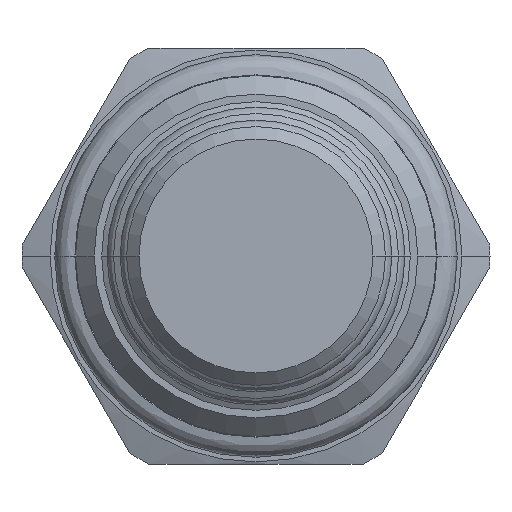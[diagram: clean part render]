
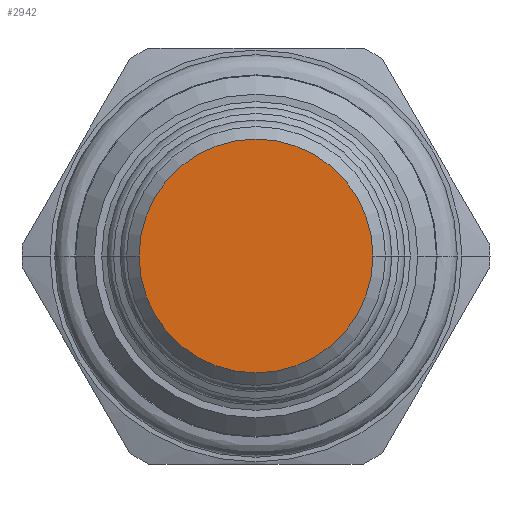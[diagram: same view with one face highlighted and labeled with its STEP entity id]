
A CAD part, front view. The second image highlights one B-rep face of the part: STEP entity #2942.
In plain terms, the highlighted planar face has unit normal (0, -1, 0).
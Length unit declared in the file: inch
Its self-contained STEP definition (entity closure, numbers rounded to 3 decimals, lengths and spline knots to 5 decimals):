
#1363=CARTESIAN_POINT('',(0.,-1.81277,0.));
#1364=DIRECTION('',(0.,-1.,0.));
#1365=DIRECTION('',(-1.,0.,0.));
#1366=AXIS2_PLACEMENT_3D('',#1363,#1364,#1365);
#1381=CARTESIAN_POINT('',(0.,-1.81277,0.));
#1382=DIRECTION('',(0.,1.,0.));
#1383=DIRECTION('',(-1.,0.,0.));
#1384=AXIS2_PLACEMENT_3D('',#1381,#1382,#1383);
#1579=CARTESIAN_POINT('',(-0.281,-1.81277,0.));
#1580=CARTESIAN_POINT('',(0.281,-1.81277,0.));
#1581=VERTEX_POINT('',#1579);
#1582=VERTEX_POINT('',#1580);
#2932=CARTESIAN_POINT('',(0.,-1.81277,0.));
#2933=DIRECTION('',(0.,-1.,0.));
#2934=DIRECTION('',(-1.,0.,0.));
#2935=AXIS2_PLACEMENT_3D('',#2932,#2933,#2934);
#2936=PLANE('',#2935);
#2937=ORIENTED_EDGE('',*,*,#2922,.F.);
#2939=ORIENTED_EDGE('',*,*,#2938,.T.);
#2940=EDGE_LOOP('',(#2937,#2939));
#2941=FACE_OUTER_BOUND('',#2940,.F.);
#2942=ADVANCED_FACE('',(#2941),#2936,.T.);
#1367=CIRCLE('',#1366,0.281);
#1385=CIRCLE('',#1384,0.281);
#2922=EDGE_CURVE('',#1581,#1582,#1367,.T.);
#2938=EDGE_CURVE('',#1581,#1582,#1385,.T.);
